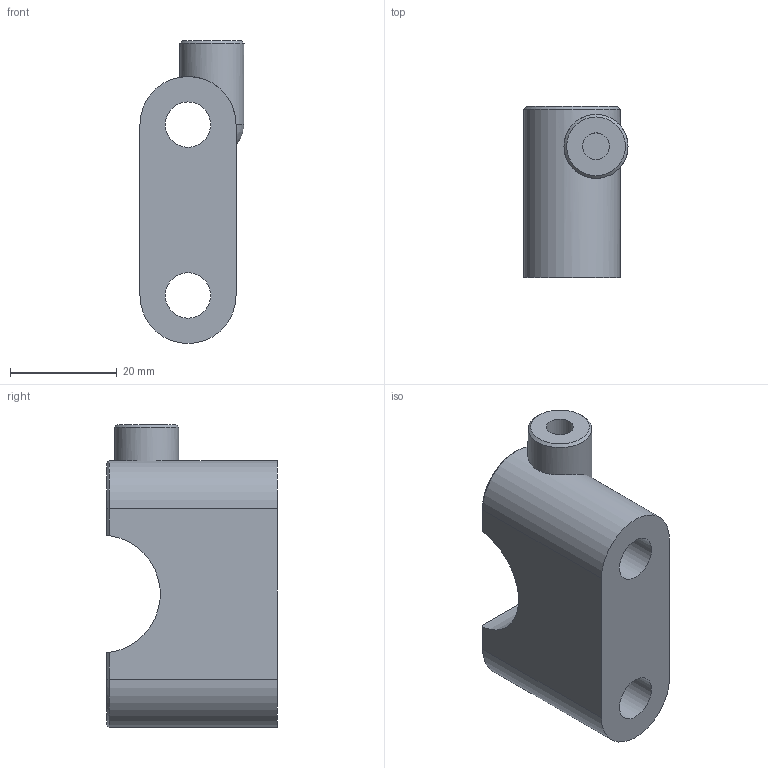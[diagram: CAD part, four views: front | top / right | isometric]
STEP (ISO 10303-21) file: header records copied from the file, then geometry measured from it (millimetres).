
FILE_DESCRIPTION(/* description */ (''),/* implementation_level */ '2;1');
FILE_NAME(/* name */ 'Lower Right Clamp.step',/* time_stamp */ '2024-02-04T12:49:19-06:00',/* author */ (''),/* organization */ (''),/* preprocessor_version */ 'ST-DEVELOPER v20',/* originating_system */ 'Autodesk Translation Framework v12.20.1.177',/* authorisation */ '');
FILE_SCHEMA (('AUTOMOTIVE_DESIGN { 1 0 10303 214 3 1 1 }'));
Length unit declared in the file: millimetre
Products named in the file (3): Top Clamp Prototyping; Simplified Clamps k75d; Lower Right Clamp
Assembly tree (2 placements, depth 3):
  Top Clamp Prototyping
    Simplified Clamps k75d
      Lower Right Clamp
Bounding box: 19.5 x 32 x 56.75 mm (x, y, z)
Volume: 20710.9 mm3; surface area: 7315 mm2
Topology: 1 solids, 1 shells, 22 faces, 50 edges, 31 vertices
Faces by surface type: plane 11, cylinder 7, cone 3, sphere 1
Full cylindrical faces by diameter (mm): 5.035 x1, 8.5 x2, 12 x1
Entity records: 749 total; most frequent: CARTESIAN_POINT 146, DIRECTION 124, ORIENTED_EDGE 100, EDGE_CURVE 50, AXIS2_PLACEMENT_3D 49, VERTEX_POINT 31, EDGE_LOOP 27, LINE 26
